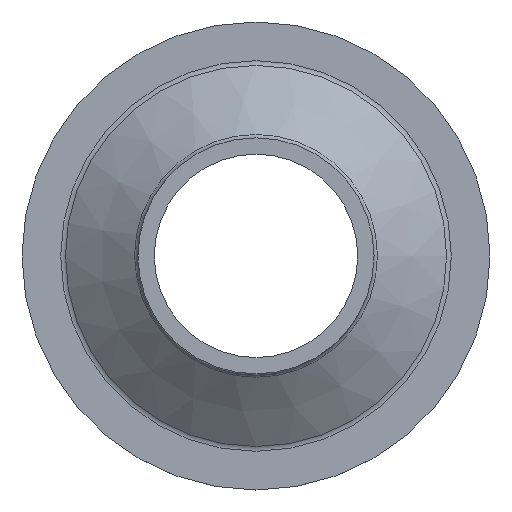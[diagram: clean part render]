
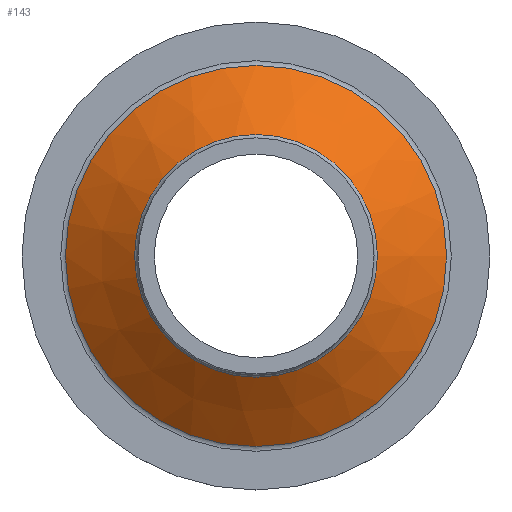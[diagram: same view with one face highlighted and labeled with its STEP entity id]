
A CAD part, top view. The second image highlights one B-rep face of the part: STEP entity #143.
In plain terms, the highlighted conical face has half-angle 53.893 degrees and reference radius 14.911 mm.
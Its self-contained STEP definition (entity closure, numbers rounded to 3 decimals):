
#98=CARTESIAN_POINT('',(23.411,0.,1.292));
#99=VERTEX_POINT('',#98);
#107=CARTESIAN_POINT('',(0.,0.,1.292));
#108=DIRECTION('',(1.,0.,0.));
#109=DIRECTION('',(0.,0.,1.));
#110=AXIS2_PLACEMENT_3D('',#107,#109,#108);
#111=CIRCLE('',#110,23.411);
#112=EDGE_CURVE('',#99,#99,#111,.T.);
#119=CARTESIAN_POINT('',(0.,0.,7.492));
#120=DIRECTION('',(1.,0.,0.));
#121=DIRECTION('',(-0.,-0.,-1.));
#122=AXIS2_PLACEMENT_3D('',#119,#121,#120);
#123=CONICAL_SURFACE('',#122,14.911,0.941);
#124=CARTESIAN_POINT('',(14.911,0.,7.492));
#125=VERTEX_POINT('',#124);
#126=CARTESIAN_POINT('',(23.411,0.,1.292));
#127=DIRECTION('',(-0.808,0.,0.589));
#128=VECTOR('',#127,10.521);
#129=LINE('',#126,#128);
#130=EDGE_CURVE('',#99,#125,#129,.T.);
#131=ORIENTED_EDGE('E3',*,*,#130,.T.);
#132=CARTESIAN_POINT('',(0.,0.,7.492));
#133=DIRECTION('',(1.,0.,-0.));
#134=DIRECTION('',(0.,-0.,1.));
#135=AXIS2_PLACEMENT_3D('',#132,#134,#133);
#136=CIRCLE('',#135,14.911);
#137=EDGE_CURVE('',#125,#125,#136,.T.);
#138=ORIENTED_EDGE('E12',*,*,#137,.T.);
#139=ORIENTED_EDGE('E12',*,*,#130,.F.);
#140=ORIENTED_EDGE('E12',*,*,#112,.F.);
#141=EDGE_LOOP('',(#131,#138,#139,#140));
#142=FACE_OUTER_BOUND('',#141,.F.);
#143=ADVANCED_FACE('F5',(#142),#123,.T.);
